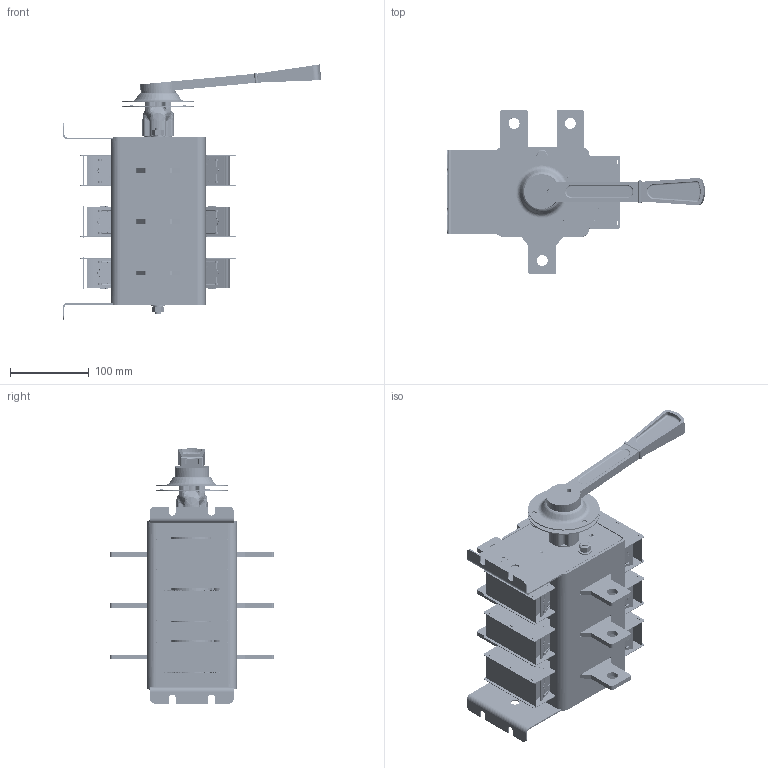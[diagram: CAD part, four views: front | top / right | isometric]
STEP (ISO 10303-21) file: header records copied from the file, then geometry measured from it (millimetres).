
FILE_DESCRIPTION (( 'STEP AP214' ), '1' );
FILE_NAME ('ﾂﾐ32-39 ﾃﾆﾈﾊ.642523.012-01 (ﾂ71250-630ﾀ).STEP', '2023-04-19T05:24:48', ( '' ), ( '' ), 'SwSTEP 2.0', 'SolidWorks 2018', '' );
FILE_SCHEMA (( 'AUTOMOTIVE_DESIGN' ));
Length unit declared in the file: millimetre
Products named in the file (36): ﾏ跖浯_ﾃﾆﾈﾊ.753553.012_-01 (癸ｮ爼); 殃钺郷闷仁.746743.012; ﾘ琺矜 8.01.019; 务黖闷仁.715411.020; ﾘ琺矜 8 65ﾃ 016; 想囫蜩磬_闷仁.745355.016; 买箅赅 闷仁.713141.011; Èñêðîãàñèòåëü_ÃÆÈÊ.741271.008_-01 (®â¢¥àáâ¨ï); ﾘ琺矜 ﾃﾆﾈﾊ.758491.059; Áîêîâèíà ïðàâàÿ ÃÆÈÊ.735224.036; 澡犟囹铕_闷仁.745484.007; 剜獒郷闷仁.758491.058; Êîðïóñ ëåâûé ÃÆÈÊ.735384.065; ﾂ鏆鮏 ﾃﾆﾈﾊ.745485.018; 锐牮钽囫栩咫黖闷仁.741271.008; 宣鬣鉥闷仁.303733.004; Êîíòàêò ïîäâèæíûé_ÃÆÈÊ.745355. 033; Øïèëüêà Ì8 ÃÆÈÊ.758292.006; Áîêîâèíà ïðàâàÿ ÃÆÈÊ.735224.036_-01; Ðóêîÿòêà ÃÆÈÊ.303658.011; 想囫蜩磬_闷仁.745355.018; Êàìåðà äóãîãàñèòåëüíàÿ ÃÆÈÊ.686431.031; 剜獒郷闷仁.758491.057; Èñêðîãàñèòåëü ÃÆÈÊ686433.013 ÑÁ; ﾂ鏆鮏 ﾃﾆﾈﾊ.745485.019; Ãàéêà 2Ì8-6Í.5.016; 想囫蜩磬_闷仁.745355.034; ﾂﾐ32-39 ﾃﾆﾈﾊ.642523.012-01 (ﾂ71250-630ﾀ); 羊屙赅_闷仁.741226.008; 暑痫篑 镳噔 闷仁.735384.063; Îáîëî÷êà_630À; 想囫蜩磬_闷仁.745355.015_-01 (帷獱); Êîðïóñ ñðåäíèé ÃÆÈÊ.735384.064; 噪囗弼 闷仁.712378.002; ﾂ琿 ﾃﾆﾈﾊ.715274.008; Êîíòàêò ïîäâèæíûé ÃÆÈÊ.685179.160
Assembly tree (75 placements, depth 4):
  ﾂﾐ32-39 ﾃﾆﾈﾊ.642523.012-01 (ﾂ71250-630ﾀ)
    Êîðïóñ ëåâûé ÃÆÈÊ.735384.065
    ﾂ鏆鮏 ﾃﾆﾈﾊ.745485.019  x3
    Áîêîâèíà ïðàâàÿ ÃÆÈÊ.735224.036_-01
    Êîíòàêò ïîäâèæíûé ÃÆÈÊ.685179.160  x3
      想囫蜩磬_闷仁.745355.016
      务黖闷仁.715411.020
      Êîíòàêò ïîäâèæíûé_ÃÆÈÊ.745355. 033
      澡犟囹铕_闷仁.745484.007
      ﾏ跖浯_ﾃﾆﾈﾊ.753553.012_-01 (癸ｮ爼)
    ﾂ琿 ﾃﾆﾈﾊ.715274.008
    ﾂ鏆鮏 ﾃﾆﾈﾊ.745485.018  x6
    Êîðïóñ ñðåäíèé ÃÆÈÊ.735384.064  x2
    暑痫篑 镳噔 闷仁.735384.063
    Áîêîâèíà ïðàâàÿ ÃÆÈÊ.735224.036
    Êàìåðà äóãîãàñèòåëüíàÿ ÃÆÈÊ.686431.031  x6
      羊屙赅_闷仁.741226.008
      想囫蜩磬_闷仁.745355.034
      Èñêðîãàñèòåëü ÃÆÈÊ686433.013 ÑÁ
        Èñêðîãàñèòåëü_ÃÆÈÊ.741271.008_-01 (®â¢¥àáâ¨ï)
        殃钺郷闷仁.746743.012
      锐牮钽囫栩咫黖闷仁.741271.008
    Øïèëüêà Ì8 ÃÆÈÊ.758292.006  x2
    Ãàéêà 2Ì8-6Í.5.016  x4
    ﾘ琺矜 8 65ﾃ 016  x4
    ﾘ琺矜 8.01.019  x4
    买箅赅 闷仁.713141.011
    噪囗弼 闷仁.712378.002
    ﾘ琺矜 ﾃﾆﾈﾊ.758491.059
    Ðóêîÿòêà ÃÆÈÊ.303658.011
      宣鬣鉥闷仁.303733.004
        想囫蜩磬_闷仁.745355.018
        剜獒郷闷仁.758491.058
        想囫蜩磬_闷仁.745355.015_-01 (帷獱)
        剜獒郷闷仁.758491.057
      Îáîëî÷êà_630À
Bounding box: 327.7 x 207.75 x 323.47 mm (x, y, z)
Volume: 1660973.6 mm3; surface area: 1021553.8 mm2
Topology: 173 solids, 173 shells, 7083 faces, 18781 edges, 12164 vertices
Faces by surface type: plane 4698, cylinder 1765, torus 394, bspline 136, cone 88, sphere 2
Entity records: 111564 total; most frequent: CARTESIAN_POINT 61867, ORIENTED_EDGE 9180, DIRECTION 9135, EDGE_CURVE 4590, AXIS2_PLACEMENT_3D 3104, VERTEX_POINT 2998, VECTOR 2927, LINE 2927
